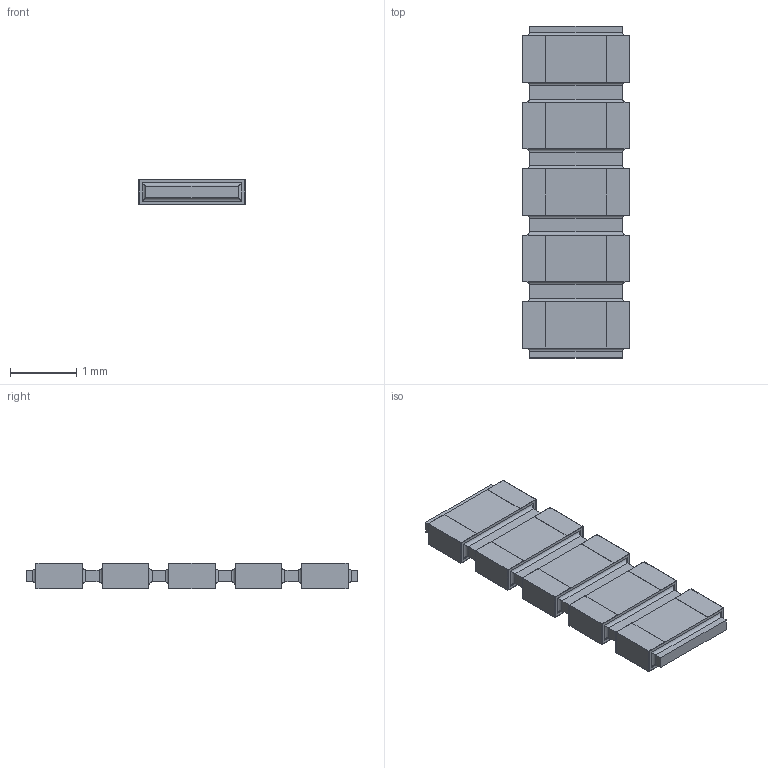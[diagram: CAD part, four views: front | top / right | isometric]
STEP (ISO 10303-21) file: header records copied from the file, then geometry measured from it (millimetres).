
FILE_DESCRIPTION(/* description */ (''),/* implementation_level */ '2;1');
FILE_NAME(/* name */ 'S:\DOCUMENT\AUTOCAD\3D_Modèles\10_3D-pour-VISHAY-COM\PRA\PRAHR100I5_B.stp',/* time_stamp */ '2018-02-02T10:46:48+01:00',/* author */ ('dparmentier'),/* organization */ ('unknown'),/* preprocessor_version */ 'ST-DEVELOPER v17',/* originating_system */ 'Autodesk Inventor 2018',/* authorisation */ '');
FILE_SCHEMA (('AUTOMOTIVE_DESIGN { 1 0 10303 214 3 1 1 }'));
Length unit declared in the file: millimetre
Products named in the file (1): PRAHR100I5_B
Bounding box: 1.6 x 5 x 0.38 mm (x, y, z)
Volume: 2.5 mm3; surface area: 36.5 mm2
Topology: 11 solids, 11 shells, 196 faces, 452 edges, 288 vertices
Faces by surface type: plane 156, cylinder 40
Entity records: 5459 total; most frequent: CARTESIAN_POINT 937, ORIENTED_EDGE 904, DIRECTION 886, EDGE_CURVE 452, LINE 412, VECTOR 412, VERTEX_POINT 288, AXIS2_PLACEMENT_3D 237
